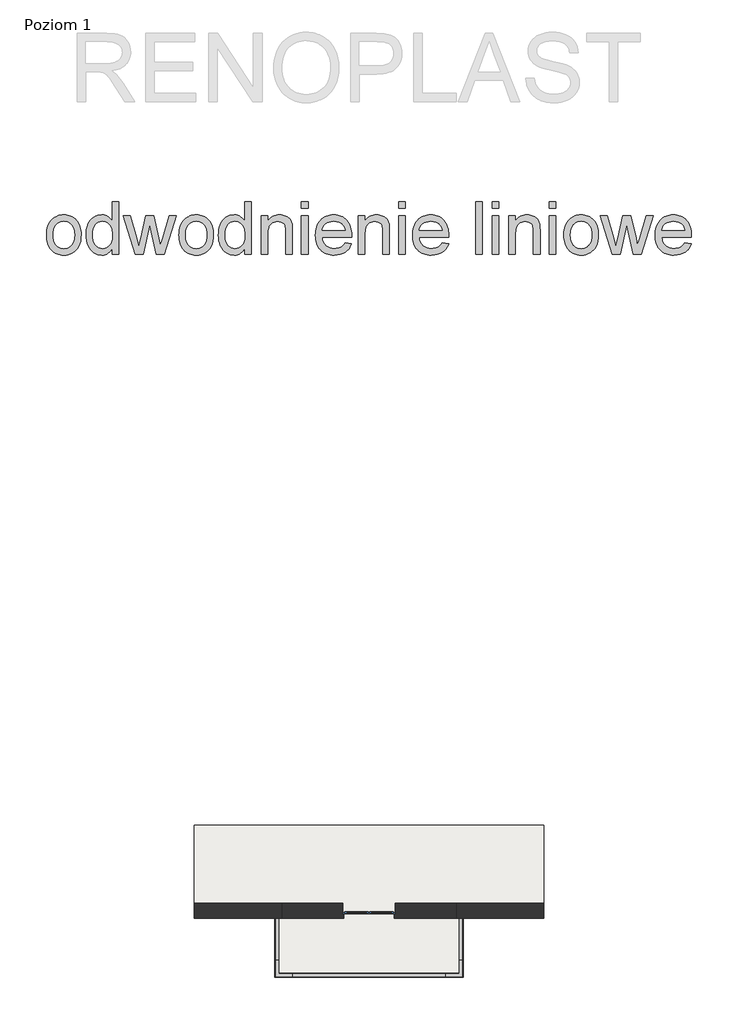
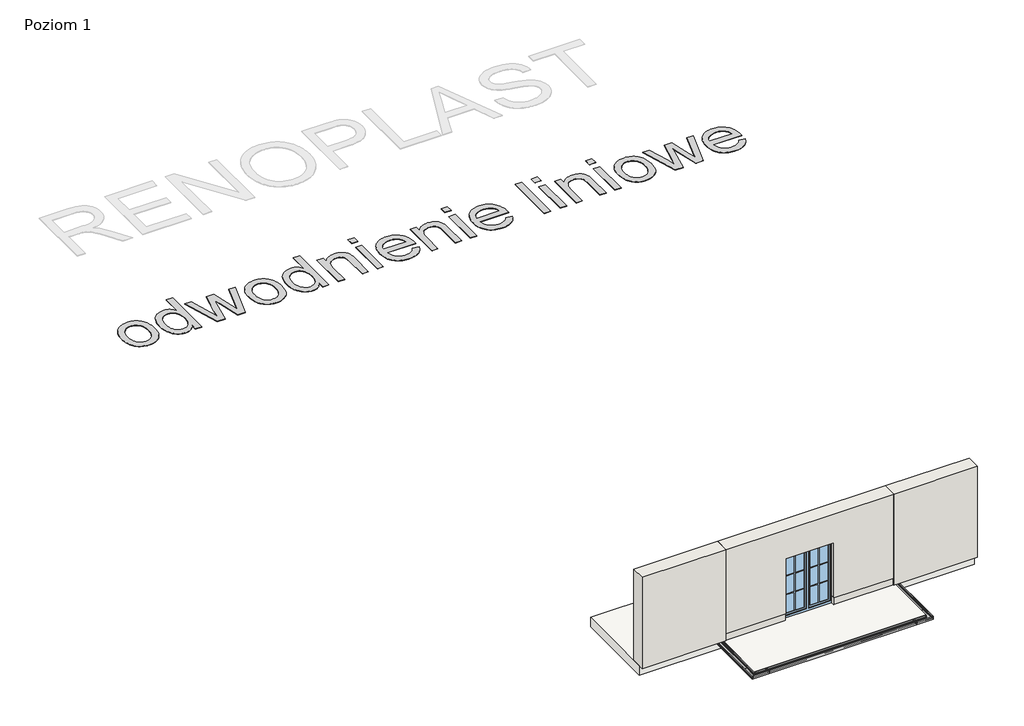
# One storey, part 1 of 2: 6 proxies, 4 walls, 3 slabs, 1 window.
"""IFC4 building model written with IfcOpenShell, lengths in millimetres."""

from ifc_helpers import new_model, si_unit, frame, origin, origin_with_axes, place, context, project, spatial, polyline, outline, extrude, faceted_brep, transform, mapped, element, save
from components import generic_models_1564dfc5, generic_models_f545b3be, generic_models_1ec3699d, generic_models_fa7b45f4, generic_models_2630b972, window_150x200_12b14935

model = new_model("IFC4")

# Units and contexts
model_context = context("Model", 3, world=origin())
ifc_project = project(units=[si_unit("LENGTHUNIT", "METRE", prefix="MILLI")], contexts=[model_context])

# Site, building, storey
site = spatial("IfcSite", under=ifc_project)
building = spatial("IfcBuilding", under=site)
storey = spatial("IfcBuildingStorey", under=building, Name="Poziom 1", Elevation=0.0)

# Proxies
placement = place(None, origin())
generic_models_shape = generic_models_1564dfc5(model_context)
element("IfcBuildingElementProxy", 1, Name="Zakończenie RENODRAIN : Zakończenie RENODRAIN", ObjectType="Zakończenie RENODRAIN : Zakończenie RENODRAIN", at=placement, inside=storey, context=model_context, shape_type="MappedRepresentation", body=[
    mapped(generic_models_shape, transform((-100591.2365031, 45415.2483344, -55.0), x_axis=(0.0, -1.0, 0.0), y_axis=(1.0, 0.0, 0.0), z_axis=(0.0, 0.0, 1.0))),
])
generic_models_2_shape = generic_models_f545b3be(model_context)
element("IfcBuildingElementProxy", 2, Name="Zakończenie RENODRAIN : Zakończenie RENODRAIN", ObjectType="Zakończenie RENODRAIN : Zakończenie RENODRAIN", at=placement, inside=storey, context=model_context, shape_type="MappedRepresentation", body=[
    mapped(generic_models_2_shape, transform((-105717.2365022, 45415.2483344, -55.0), x_axis=(0.0, -1.0, 0.0), y_axis=(1.0, 0.0, 0.0), z_axis=(0.0, 0.0, 1.0))),
])
generic_models_3_shape = generic_models_1ec3699d(model_context)
element("IfcBuildingElementProxy", 3, Name="Koryto RENODRAIN : RENODRAIN", ObjectType="Koryto RENODRAIN : RENODRAIN", at=placement, inside=storey, context=model_context, shape_type="MappedRepresentation", body=[
    mapped(generic_models_3_shape, transform((-105717.2365026, 45418.2483344, -55.0), x_axis=(0.0, -1.0, 0.0), y_axis=(1.0, 0.0, 0.0), z_axis=(0.0, 0.0, 1.0))),
])
generic_models_4_shape = generic_models_fa7b45f4(model_context)
element("IfcBuildingElementProxy", 4, Name="Koryto RENODRAIN : RENODRAIN", ObjectType="Koryto RENODRAIN : RENODRAIN", at=placement, inside=storey, context=model_context, shape_type="MappedRepresentation", body=[
    mapped(generic_models_4_shape, transform((-100591.2365026, 45418.2483344, -55.0), x_axis=(0.0, -1.0, 0.0), y_axis=(1.0, 0.0, 0.0), z_axis=(0.0, 0.0, 1.0))),
])
generic_models_5_shape = generic_models_2630b972(model_context)
element("IfcBuildingElementProxy", 5, Name="Koryto RENODRAIN : RENODRAIN", ObjectType="Koryto RENODRAIN : RENODRAIN", at=placement, inside=storey, context=model_context, shape_type="MappedRepresentation", body=[
    mapped(generic_models_5_shape, transform((-105717.2365026, 43700.2483344, -55.0), x_axis=(1.0, 0.0, 0.0), y_axis=(0.0, 1.0, 0.0), z_axis=(0.0, 0.0, 1.0))),
])
element("IfcBuildingElementProxy", 6, Name="1500 mm Arial", ObjectType="1500 mm Arial", at=placement, inside=storey, context=model_context, shape_type="SweptSolid", body=[
    extrude(outline(polyline([(-112385.6205098, 64818.9922936), (-112383.0740766, 64893.1262638), (-112375.434777, 64962.3053233), (-112362.7026111, 65026.5294723), (-112344.8775788, 65085.7987106), (-112321.9596801, 65140.1130383), (-112293.9489151, 65189.4724554), (-112260.8452837, 65233.8769618), (-112222.6487859, 65273.3265576), (-112187.6885001, 65302.0385977), (-112150.8658116, 65326.9223658), (-112112.1807206, 65347.9778619), (-112071.6332269, 65365.2050859), (-112029.2233306, 65378.604038), (-111984.9510318, 65388.174718), (-111938.8163303, 65393.917126), (-111890.8192263, 65395.831262), (-111837.6171668, 65393.5003847), (-111786.9040589, 65386.5077527), (-111738.6799027, 65374.8533661), (-111692.9446981, 65358.5372248), (-111649.6984451, 65337.5593288), (-111608.9411438, 65311.9196782), (-111570.672794, 65281.6182729), (-111534.8933959, 65246.655113), (-111502.5169063, 65207.5820214), (-111474.4572819, 65164.9508211), (-111450.7145228, 65118.7615122), (-111431.288629, 65069.0140946), (-111416.1796005, 65015.7085683), (-111405.3874373, 64958.8449333), (-111398.9121394, 64898.4231897), (-111396.7537067, 64834.4433374), (-111400.5704824, 64733.6206781), (-111412.0208095, 64644.1563754), (-111431.104688, 64566.0504293), (-111457.8221179, 64499.3028398), (-111491.8397062, 64441.6488334), (-111532.8240597, 64390.8236365), (-111580.7751785, 64346.8272491), (-111635.6930626, 64309.6596713), (-111695.4393979, 64280.1256448), (-111757.8758703, 64259.0299117), (-111823.0024797, 64246.3724718), (-111890.8192263, 64242.1533252), (-111944.8605165, 64244.4755802), (-111996.2519068, 64251.4423455), (-112044.9933971, 64263.053621), (-112091.0849874, 64279.3094067), (-112134.5266777, 64300.2097025), (-112175.318468, 64325.7545086), (-112213.4603583, 64355.9438248), (-112248.9523486, 64390.7776512), (-112280.9839489, 64429.9800763), (-112308.7446691, 64473.2751886), (-112332.2345093, 64520.6629881), (-112351.4534695, 64572.1434748), (-112366.4015496, 64627.7166487), (-112377.0787497, 64687.3825098), (-112383.4850698, 64751.1410581), (-112385.6205098, 64818.9922936)]), holes=[polyline([(-112197.2649282, 64819.3601756), (-112191.8156762, 64727.9989813), (-112185.0041111, 64686.9140351), (-112175.46792, 64648.8928561), (-112163.2071029, 64613.9354443), (-112148.2216598, 64582.0417998), (-112130.5115906, 64553.2119225), (-112110.0768954, 64527.4458124), (-112087.5786121, 64504.7262251), (-112063.6777787, 64485.0359162), (-112038.3743953, 64468.3748855), (-112011.6684617, 64454.7431331), (-111983.559978, 64444.1406591), (-111954.0489442, 64436.5674633), (-111890.8192263, 64430.5089067), (-111827.9114051, 64436.6019522), (-111798.5268307, 64444.2182592), (-111770.5218138, 64454.8810889), (-111743.8963544, 64468.5904413), (-111718.6504525, 64485.3463166), (-111694.7841081, 64505.1487146), (-111672.2973211, 64527.9976354), (-111651.8626259, 64553.967805), (-111634.1525568, 64583.1339494), (-111619.1671136, 64615.4960687), (-111606.9062965, 64651.0541628), (-111597.3701054, 64689.8082317), (-111590.5585403, 64731.7582755), (-111585.1092883, 64825.2462875), (-111590.5930293, 64913.710411), (-111597.4477055, 64953.6572224), (-111607.0442522, 64990.7472001), (-111619.3826695, 65024.9803442), (-111634.4629572, 65056.3566547), (-111652.2851154, 65084.8761315), (-111672.8491441, 65110.5387748), (-111719.3747202, 65152.948671), (-111744.6292444, 65169.6097017), (-111771.2115926, 65183.2414541), (-111799.1217649, 65193.8439281), (-111828.3597613, 65201.4171239), (-111890.8192263, 65207.4756805), (-111954.0489442, 65201.4401165), (-111983.559978, 65193.8956615), (-112011.6684617, 65183.3334246), (-112038.3743953, 65169.7534056), (-112063.6777787, 65153.1556046), (-112087.5786121, 65133.5400217), (-112110.0768954, 65110.9066568), (-112130.5115906, 65085.2267691), (-112148.2216598, 65056.4716178), (-112163.2071029, 65024.641203), (-112175.46792, 64989.7355246), (-112185.0041111, 64951.7545827), (-112191.8156762, 64910.6983772), (-112197.2649282, 64819.3601756)])]), origin_with_axes(), (0.0, 0.0, 1.0), 10.0),
    extrude(outline(polyline([(-110502.0646945, 64265.6977728), (-110502.0646945, 64443.3847765), (-110528.7533836, 64396.2211551), (-110558.4196176, 64355.3460165), (-110591.0633965, 64320.7593608), (-110626.6847203, 64292.461188), (-110665.2835891, 64270.451498), (-110706.8600027, 64254.7302909), (-110751.4139612, 64245.2975666), (-110798.9454646, 64242.1533252), (-110861.1175218, 64246.7058648), (-110920.714405, 64260.3634839), (-110977.7361142, 64283.1261824), (-111032.1826495, 64314.9939602), (-111082.3525566, 64355.0126235), (-111126.5443813, 64402.2279783), (-111164.7581235, 64456.6400247), (-111196.9937834, 64518.2487625), (-111222.5845747, 64585.8815681), (-111240.8637113, 64658.3658174), (-111251.8311933, 64735.7015106), (-111255.4870206, 64817.8886476), (-111252.1186011, 64898.5697677), (-111242.0133425, 64975.434112), (-111225.1712449, 65048.4816807), (-111201.5923083, 65117.7124737), (-111171.2880289, 65181.10314), (-111134.2699032, 65236.6303286), (-111090.537931, 65284.2940396), (-111040.0921124, 65324.094273), (-110984.7143758, 65355.4792057), (-110926.1866497, 65377.8970148), (-110864.5089339, 65391.3477002), (-110799.6812286, 65395.831262), (-110752.2704364, 65392.6237909), (-110707.5267888, 65383.0013774), (-110665.4502856, 65366.9640217), (-110626.0409268, 65344.5117237), (-110589.7355724, 65316.9320704), (-110556.9710823, 65285.5126487), (-110527.7474563, 65250.2534588), (-110502.0646945, 65211.1545005), (-110502.0646945, 65772.5424251), (-110313.7091129, 65772.5424251), (-110313.7091129, 64265.6977728), (-110502.0646945, 64265.6977728)]), holes=[polyline([(-111067.1314391, 64818.6244116), (-111061.8201428, 64727.28621), (-111055.1810224, 64686.2300045), (-111045.8862538, 64648.2490626), (-111033.9358372, 64613.3433842), (-111019.3297723, 64581.5129694), (-111002.0680593, 64552.7578181), (-110982.1506982, 64527.0779304), (-110937.7519399, 64484.8289825), (-110889.5364059, 64454.6511626), (-110837.5040962, 64436.5444707), (-110781.6550108, 64430.5089067), (-110725.5415102, 64436.2685592), (-110673.819601, 64453.5475166), (-110626.489283, 64482.3457791), (-110583.5505564, 64522.6633465), (-110564.4523075, 64547.2223437), (-110547.9004918, 64574.8221156), (-110533.8951093, 64605.4626621), (-110522.43616, 64639.1439832), (-110507.1575608, 64715.6289493), (-110502.0646945, 64804.2770138), (-110507.2495313, 64901.4668384), (-110513.7305774, 64944.8711657), (-110522.804042, 64984.8151029), (-110534.4699249, 65021.2986502), (-110548.7282263, 65054.3218074), (-110565.5789461, 65083.8845746), (-110585.0220844, 65109.9869518), (-110628.9035086, 65152.6382706), (-110652.6462677, 65169.3941458), (-110677.5903914, 65183.1034983), (-110703.7358798, 65193.766328), (-110731.0827328, 65201.382635), (-110789.3805327, 65207.4756805), (-110846.3332641, 65201.6240575), (-110898.3655738, 65184.0691886), (-110945.4774618, 65154.8110736), (-110987.6689281, 65113.8497127), (-111006.2929541, 65088.7561369), (-111022.4337767, 65060.2883935), (-111036.0913957, 65028.4464824), (-111047.2658113, 64993.2304036), (-111062.1650321, 64912.6757429), (-111067.1314391, 64818.6244116)])]), origin_with_axes(), (0.0, 0.0, 1.0), 10.0),
    extrude(outline(polyline([(-109846.1310971, 64265.6977728), (-110184.2146506, 65372.2868143), (-109988.8693112, 65372.2868143), (-109797.5706737, 64726.6539128), (-109740.5489645, 64495.9919018), (-109693.8279511, 64718.1926269), (-109541.8926871, 65372.2868143), (-109318.220434, 65372.2868143), (-109166.28517, 64720.0320369), (-109124.7145045, 64518.8005855), (-109065.1176213, 64731.0684967), (-108873.8189838, 65372.2868143), (-108677.3699984, 65372.2868143), (-109016.5571979, 64265.6977728), (-109243.908271, 64265.6977728), (-109388.8537771, 64914.6416123), (-109430.7923245, 65116.9767097), (-109617.3084961, 64265.6977728), (-109846.1310971, 64265.6977728)])), origin_with_axes(), (0.0, 0.0, 1.0), 10.0),
    extrude(outline(polyline([(-108594.9644315, 64818.9922936), (-108592.4179983, 64893.1262638), (-108584.7786987, 64962.3053233), (-108572.0465328, 65026.5294723), (-108554.2215005, 65085.7987106), (-108531.3036018, 65140.1130383), (-108503.2928368, 65189.4724554), (-108470.1892054, 65233.8769618), (-108431.9927076, 65273.3265576), (-108397.0324218, 65302.0385977), (-108360.2097333, 65326.9223658), (-108321.5246422, 65347.9778619), (-108280.9771486, 65365.2050859), (-108238.5672523, 65378.604038), (-108194.2949535, 65388.174718), (-108148.160252, 65393.917126), (-108100.163148, 65395.831262), (-108046.9610885, 65393.5003847), (-107996.2479806, 65386.5077527), (-107948.0238244, 65374.8533661), (-107902.2886198, 65358.5372248), (-107859.0423668, 65337.5593288), (-107818.2850655, 65311.9196782), (-107780.0167157, 65281.6182729), (-107744.2373176, 65246.655113), (-107711.860828, 65207.5820214), (-107683.8012036, 65164.9508211), (-107660.0584445, 65118.7615122), (-107640.6325507, 65069.0140946), (-107625.5235222, 65015.7085683), (-107614.731359, 64958.8449333), (-107608.2560611, 64898.4231897), (-107606.0976284, 64834.4433374), (-107609.9144041, 64733.6206781), (-107621.3647312, 64644.1563754), (-107640.4486097, 64566.0504293), (-107667.1660396, 64499.3028398), (-107701.1836279, 64441.6488334), (-107742.1679814, 64390.8236365), (-107790.1191002, 64346.8272491), (-107845.0369843, 64309.6596713), (-107904.7833196, 64280.1256448), (-107967.219792, 64259.0299117), (-108032.3464014, 64246.3724718), (-108100.163148, 64242.1533252), (-108154.2044382, 64244.4755802), (-108205.5958285, 64251.4423455), (-108254.3373188, 64263.053621), (-108300.4289091, 64279.3094067), (-108343.8705994, 64300.2097025), (-108384.6623897, 64325.7545086), (-108422.80428, 64355.9438248), (-108458.2962703, 64390.7776512), (-108490.3278706, 64429.9800763), (-108518.0885908, 64473.2751886), (-108541.578431, 64520.6629881), (-108560.7973912, 64572.1434748), (-108575.7454713, 64627.7166487), (-108586.4226714, 64687.3825098), (-108592.8289915, 64751.1410581), (-108594.9644315, 64818.9922936)]), holes=[polyline([(-108406.6088499, 64819.3601756), (-108401.1595979, 64727.9989813), (-108394.3480328, 64686.9140351), (-108384.8118417, 64648.8928561), (-108372.5510246, 64613.9354443), (-108357.5655815, 64582.0417998), (-108339.8555123, 64553.2119225), (-108319.4208171, 64527.4458124), (-108296.9225338, 64504.7262251), (-108273.0217004, 64485.0359162), (-108247.718317, 64468.3748855), (-108221.0123834, 64454.7431331), (-108192.9038997, 64444.1406591), (-108163.3928659, 64436.5674633), (-108100.163148, 64430.5089067), (-108037.2553268, 64436.6019522), (-108007.8707524, 64444.2182592), (-107979.8657355, 64454.8810889), (-107953.2402761, 64468.5904413), (-107927.9943742, 64485.3463166), (-107904.1280298, 64505.1487146), (-107881.6412428, 64527.9976354), (-107861.2065476, 64553.967805), (-107843.4964785, 64583.1339494), (-107828.5110353, 64615.4960687), (-107816.2502182, 64651.0541628), (-107806.7140271, 64689.8082317), (-107799.902462, 64731.7582755), (-107794.45321, 64825.2462875), (-107799.936951, 64913.710411), (-107806.7916272, 64953.6572224), (-107816.3881739, 64990.7472001), (-107828.7265912, 65024.9803442), (-107843.8068789, 65056.3566547), (-107861.6290371, 65084.8761315), (-107882.1930658, 65110.5387748), (-107928.7186419, 65152.948671), (-107953.9731661, 65169.6097017), (-107980.5555143, 65183.2414541), (-108008.4656866, 65193.8439281), (-108037.703683, 65201.4171239), (-108100.163148, 65207.4756805), (-108163.3928659, 65201.4401165), (-108192.9038997, 65193.8956615), (-108221.0123834, 65183.3334246), (-108247.718317, 65169.7534056), (-108273.0217004, 65153.1556046), (-108296.9225338, 65133.5400217), (-108319.4208171, 65110.9066568), (-108339.8555123, 65085.2267691), (-108357.5655815, 65056.4716178), (-108372.5510246, 65024.641203), (-108384.8118417, 64989.7355246), (-108394.3480328, 64951.7545827), (-108401.1595979, 64910.6983772), (-108406.6088499, 64819.3601756)])]), origin_with_axes(), (0.0, 0.0, 1.0), 10.0),
    extrude(outline(polyline([(-106711.4086162, 64265.6977728), (-106711.4086162, 64443.3847765), (-106738.0973053, 64396.2211551), (-106767.7635393, 64355.3460165), (-106800.4073182, 64320.7593608), (-106836.028642, 64292.461188), (-106874.6275108, 64270.451498), (-106916.2039244, 64254.7302909), (-106960.7578829, 64245.2975666), (-107008.2893863, 64242.1533252), (-107070.4614435, 64246.7058648), (-107130.0583267, 64260.3634839), (-107187.0800359, 64283.1261824), (-107241.5265712, 64314.9939602), (-107291.6964783, 64355.0126235), (-107335.888303, 64402.2279783), (-107374.1020452, 64456.6400247), (-107406.3377051, 64518.2487625), (-107431.9284963, 64585.8815681), (-107450.207633, 64658.3658174), (-107461.175115, 64735.7015106), (-107464.8309423, 64817.8886476), (-107461.4625228, 64898.5697677), (-107451.3572642, 64975.434112), (-107434.5151666, 65048.4816807), (-107410.93623, 65117.7124737), (-107380.6319506, 65181.10314), (-107343.6138249, 65236.6303286), (-107299.8818527, 65284.2940396), (-107249.4360341, 65324.094273), (-107194.0582975, 65355.4792057), (-107135.5305714, 65377.8970148), (-107073.8528556, 65391.3477002), (-107009.0251503, 65395.831262), (-106961.6143581, 65392.6237909), (-106916.8707105, 65383.0013774), (-106874.7942073, 65366.9640217), (-106835.3848485, 65344.5117237), (-106799.0794941, 65316.9320704), (-106766.315004, 65285.5126487), (-106737.091378, 65250.2534588), (-106711.4086162, 65211.1545005), (-106711.4086162, 65772.5424251), (-106523.0530346, 65772.5424251), (-106523.0530346, 64265.6977728), (-106711.4086162, 64265.6977728)]), holes=[polyline([(-107276.4753608, 64818.6244116), (-107271.1640645, 64727.28621), (-107264.5249441, 64686.2300045), (-107255.2301755, 64648.2490626), (-107243.2797589, 64613.3433842), (-107228.673694, 64581.5129694), (-107211.411981, 64552.7578181), (-107191.4946199, 64527.0779304), (-107147.0958616, 64484.8289825), (-107098.8803276, 64454.6511626), (-107046.8480179, 64436.5444707), (-106990.9989325, 64430.5089067), (-106934.8854319, 64436.2685592), (-106883.1635227, 64453.5475166), (-106835.8332047, 64482.3457791), (-106792.8944781, 64522.6633465), (-106773.7962292, 64547.2223437), (-106757.2444135, 64574.8221156), (-106743.239031, 64605.4626621), (-106731.7800817, 64639.1439832), (-106716.5014825, 64715.6289493), (-106711.4086162, 64804.2770138), (-106716.593453, 64901.4668384), (-106723.0744991, 64944.8711657), (-106732.1479636, 64984.8151029), (-106743.8138466, 65021.2986502), (-106758.072148, 65054.3218074), (-106774.9228678, 65083.8845746), (-106794.3660061, 65109.9869518), (-106838.2474303, 65152.6382706), (-106861.9901894, 65169.3941458), (-106886.9343131, 65183.1034983), (-106913.0798015, 65193.766328), (-106940.4266545, 65201.382635), (-106998.7244544, 65207.4756805), (-107055.6771858, 65201.6240575), (-107107.7094955, 65184.0691886), (-107154.8213835, 65154.8110736), (-107197.0128498, 65113.8497127), (-107215.6368758, 65088.7561369), (-107231.7776983, 65060.2883935), (-107245.4353174, 65028.4464824), (-107256.609733, 64993.2304036), (-107271.5089538, 64912.6757429), (-107276.4753608, 64818.6244116)])]), origin_with_axes(), (0.0, 0.0, 1.0), 10.0),
    extrude(outline(polyline([(-106240.5196623, 64265.6977728), (-106240.5196623, 65372.2868143), (-106052.1640808, 65372.2868143), (-106052.1640808, 65217.7763764), (-106021.0895485, 65259.5079902), (-105986.7270709, 65295.6753888), (-105949.076648, 65326.2785723), (-105908.1382797, 65351.3175406), (-105863.9119661, 65370.7922937), (-105816.3977072, 65384.7028317), (-105765.5955029, 65393.0491544), (-105711.5053533, 65395.831262), (-105664.1060575, 65393.5894811), (-105618.6611347, 65386.8641384), (-105575.1705851, 65375.6552339), (-105533.6344086, 65359.9627675), (-105495.6276, 65340.6259701), (-105462.725154, 65318.4840725), (-105434.9270708, 65293.5370747), (-105412.2333502, 65265.7849767), (-105393.5978279, 65235.2622674), (-105377.9743394, 65202.0034358), (-105365.3628848, 65166.0084819), (-105355.7634639, 65127.2774056), (-105348.3138535, 65055.816328), (-105345.8306501, 64945.1758179), (-105345.8306501, 64265.6977728), (-105534.1862316, 64265.6977728), (-105534.1862316, 64919.7919603), (-105539.612491, 65017.1887185), (-105546.3953153, 65055.3334829), (-105555.8912693, 65086.4425041), (-105568.8246207, 65112.6425999), (-105585.9196372, 65136.0605882), (-105607.1763187, 65156.6964689), (-105632.5946653, 65174.5502419), (-105661.3009573, 65188.9551213), (-105692.4214748, 65199.2443209), (-105725.9562179, 65205.4178406), (-105761.9051866, 65207.4756805), (-105819.0993406, 65202.8541629), (-105872.2237999, 65188.9896102), (-105921.2785647, 65165.8820224), (-105966.2636349, 65133.5313995), (-105986.3965519, 65112.9702448), (-106003.84508, 65088.2589214), (-106018.6092191, 65059.3974293), (-106030.6889693, 65026.3857684), (-106040.0843306, 64989.2239387), (-106046.7953029, 64947.9119403), (-106052.1640808, 64852.8374371), (-106052.1640808, 64265.6977728), (-106240.5196623, 64265.6977728)])), origin_with_axes(), (0.0, 0.0, 1.0), 10.0),
    extrude(outline(polyline([(-105086.8417255, 64265.6977728), (-105086.8417255, 65372.2868143), (-104898.4861439, 65372.2868143), (-104898.4861439, 64265.6977728), (-105086.8417255, 64265.6977728)])), origin_with_axes(), (0.0, 0.0, 1.0), 10.0),
    extrude(outline(polyline([(-105086.8417255, 65584.1868436), (-105086.8417255, 65772.5424251), (-104898.4861439, 65772.5424251), (-104898.4861439, 65584.1868436), (-105086.8417255, 65584.1868436)])), origin_with_axes(), (0.0, 0.0, 1.0), 10.0),
    extrude(outline(polyline([(-103841.1932898, 64595.3200405), (-103656.5165282, 64571.7755928), (-103684.8319455, 64497.8083192), (-103702.7058372, 64464.1183758), (-103723.0571841, 64432.6242282), (-103745.8859863, 64403.3258761), (-103771.1922439, 64376.2233198), (-103798.9759568, 64351.3165591), (-103829.237125, 64328.605594), (-103861.8262964, 64308.3433435), (-103896.594019, 64290.7827264), (-103933.5402928, 64275.9237427), (-103972.6651178, 64263.7663924), (-104057.4504214, 64247.556592), (-104150.9499297, 64242.1533252), (-104210.9779247, 64244.4842025), (-104267.8214411, 64251.4768345), (-104321.480479, 64263.1312211), (-104371.9550383, 64279.4473624), (-104419.2451192, 64300.4252584), (-104463.3507215, 64326.064909), (-104504.2718453, 64356.3663143), (-104542.0084906, 64391.3294742), (-104575.8938713, 64430.5002845), (-104605.2612012, 64473.4246407), (-104630.1104803, 64520.1025429), (-104650.4417087, 64570.5339911), (-104666.2548863, 64624.7189853), (-104677.5500132, 64682.6575254), (-104684.3270893, 64744.3496116), (-104686.5861147, 64809.7952437), (-104684.3040967, 64877.4682864), (-104677.4580427, 64941.2440791), (-104666.0479527, 65001.122622), (-104650.0738267, 65057.103915), (-104629.5356647, 65109.1879581), (-104604.4334667, 65157.3747513), (-104574.7672327, 65201.6642946), (-104540.5369626, 65242.056588), (-104502.6681098, 65278.0975273), (-104462.0861272, 65309.3330079), (-104418.7910149, 65335.76303), (-104372.7827728, 65357.3875935), (-104324.0614011, 65374.2066985), (-104272.6268996, 65386.2203449), (-104218.4792685, 65393.4285327), (-104161.6185076, 65395.831262), (-104106.6172752, 65393.4342809), (-104054.1854687, 65386.2433375), (-104004.323088, 65374.2584319), (-103957.030133, 65357.479564), (-103912.3066039, 65335.9067339), (-103870.1525006, 65309.5399415), (-103830.5678231, 65278.3791869), (-103793.5525714, 65242.42447), (-103760.0551913, 65202.1241471), (-103731.0241286, 65157.9265743), (-103706.4593831, 65109.8317516), (-103686.3609551, 65057.839679), (-103670.7288444, 65001.9503565), (-103659.563051, 64942.1637841), (-103652.863575, 64878.4799618), (-103650.6304163, 64810.8988897), (-103651.7340623, 64760.1311744), (-104498.2305332, 64760.1311744), (-104487.3205328, 64684.9682842), (-104477.8217047, 64650.8874663), (-104465.6269914, 64619.1403997), (-104450.7363928, 64589.7270846), (-104433.149909, 64562.6475208), (-104412.8675399, 64537.9017085), (-104389.8892856, 64515.4896476), (-104338.2363542, 64478.3105734), (-104280.5823478, 64451.7540919), (-104216.9272663, 64435.820203), (-104147.2711098, 64430.5089067), (-104095.1698222, 64432.9691175), (-104047.0232661, 64440.3497501), (-104002.8314414, 64452.6508043), (-103962.5943482, 64469.8722802), (-103926.3119864, 64492.4740302), (-103893.9843561, 64520.915907), (-103865.6114572, 64555.1979104), (-103841.1932898, 64595.3200405)]), holes=[polyline([(-104498.2305332, 64948.4867559), (-103838.9859978, 64948.4867559), (-103848.6658928, 65001.7836599), (-103864.461826, 65047.9988356), (-103886.3737973, 65087.1322828), (-103914.4018068, 65119.1840017), (-103939.1993526, 65139.8773639), (-103965.7673304, 65157.8116112), (-103994.1057404, 65172.9867435), (-104024.2145824, 65185.4027608), (-104089.7435628, 65201.9574506), (-104162.3542716, 65207.4756805), (-104228.584527, 65203.0725929), (-104289.3195452, 65189.86333), (-104344.559326, 65167.8478918), (-104394.3038696, 65137.0262784), (-104436.0469797, 65098.8240325), (-104467.2824603, 65054.6666968), (-104488.0103115, 65004.5542712), (-104498.2305332, 64948.4867559)])]), origin_with_axes(), (0.0, 0.0, 1.0), 10.0),
    extrude(outline(polyline([(-103462.2748348, 64265.6977728), (-103462.2748348, 65372.2868143), (-103273.9192532, 65372.2868143), (-103273.9192532, 65217.7763764), (-103242.844721, 65259.5079902), (-103208.4822433, 65295.6753888), (-103170.8318204, 65326.2785723), (-103129.8934521, 65351.3175406), (-103085.6671385, 65370.7922937), (-103038.1528796, 65384.7028317), (-102987.3506753, 65393.0491544), (-102933.2605257, 65395.831262), (-102885.8612299, 65393.5894811), (-102840.4163072, 65386.8641384), (-102796.9257576, 65375.6552339), (-102755.389581, 65359.9627675), (-102717.3827724, 65340.6259701), (-102684.4803265, 65318.4840725), (-102656.6822432, 65293.5370747), (-102633.9885226, 65265.7849767), (-102615.3530003, 65235.2622674), (-102599.7295118, 65202.0034358), (-102587.1180572, 65166.0084819), (-102577.5186364, 65127.2774056), (-102570.069026, 65055.816328), (-102567.5858225, 64945.1758179), (-102567.5858225, 64265.6977728), (-102755.941404, 64265.6977728), (-102755.941404, 64919.7919603), (-102761.3676635, 65017.1887185), (-102768.1504877, 65055.3334829), (-102777.6464417, 65086.4425041), (-102790.5797931, 65112.6425999), (-102807.6748096, 65136.0605882), (-102828.9314911, 65156.6964689), (-102854.3498377, 65174.5502419), (-102883.0561297, 65188.9551213), (-102914.1766472, 65199.2443209), (-102947.7113903, 65205.4178406), (-102983.660359, 65207.4756805), (-103040.854513, 65202.8541629), (-103093.9789723, 65188.9896102), (-103143.0337371, 65165.8820224), (-103188.0188074, 65133.5313995), (-103208.1517244, 65112.9702448), (-103225.6002524, 65088.2589214), (-103240.3643916, 65059.3974293), (-103252.4441418, 65026.3857684), (-103261.839503, 64989.2239387), (-103268.5504754, 64947.9119403), (-103273.9192532, 64852.8374371), (-103273.9192532, 64265.6977728), (-103462.2748348, 64265.6977728)])), origin_with_axes(), (0.0, 0.0, 1.0), 10.0),
    extrude(outline(polyline([(-102308.5968979, 65584.1868436), (-102308.5968979, 65772.5424251), (-102120.2413164, 65772.5424251), (-102120.2413164, 65584.1868436), (-102308.5968979, 65584.1868436)])), origin_with_axes(), (0.0, 0.0, 1.0), 10.0),
    extrude(outline(polyline([(-102308.5968979, 64265.6977728), (-102308.5968979, 65372.2868143), (-102120.2413164, 65372.2868143), (-102120.2413164, 64265.6977728), (-102308.5968979, 64265.6977728)])), origin_with_axes(), (0.0, 0.0, 1.0), 10.0),
    extrude(outline(polyline([(-101062.9484622, 64595.3200405), (-100878.2717006, 64571.7755928), (-100906.587118, 64497.8083192), (-100924.4610096, 64464.1183758), (-100944.8123565, 64432.6242282), (-100967.6411588, 64403.3258761), (-100992.9474163, 64376.2233198), (-101020.7311292, 64351.3165591), (-101050.9922974, 64328.605594), (-101083.5814688, 64308.3433435), (-101118.3491914, 64290.7827264), (-101155.2954653, 64275.9237427), (-101194.4202903, 64263.7663924), (-101279.2055938, 64247.556592), (-101372.7051022, 64242.1533252), (-101432.7330971, 64244.4842025), (-101489.5766135, 64251.4768345), (-101543.2356514, 64263.1312211), (-101593.7102108, 64279.4473624), (-101641.0002916, 64300.4252584), (-101685.1058939, 64326.064909), (-101726.0270178, 64356.3663143), (-101763.763663, 64391.3294742), (-101797.6490437, 64430.5002845), (-101827.0163736, 64473.4246407), (-101851.8656527, 64520.1025429), (-101872.1968811, 64570.5339911), (-101888.0100588, 64624.7189853), (-101899.3051856, 64682.6575254), (-101906.0822618, 64744.3496116), (-101908.3412871, 64809.7952437), (-101906.0592691, 64877.4682864), (-101899.2132151, 64941.2440791), (-101887.8031251, 65001.122622), (-101871.8289991, 65057.103915), (-101851.2908371, 65109.1879581), (-101826.1886391, 65157.3747513), (-101796.5224051, 65201.6642946), (-101762.2921351, 65242.056588), (-101724.4232822, 65278.0975273), (-101683.8412996, 65309.3330079), (-101640.5461873, 65335.76303), (-101594.5379453, 65357.3875935), (-101545.8165735, 65374.2066985), (-101494.3820721, 65386.2203449), (-101440.2344409, 65393.4285327), (-101383.37368, 65395.831262), (-101328.3724477, 65393.4342809), (-101275.9406411, 65386.2433375), (-101226.0782604, 65374.2584319), (-101178.7853055, 65357.479564), (-101134.0617763, 65335.9067339), (-101091.907673, 65309.5399415), (-101052.3229955, 65278.3791869), (-101015.3077439, 65242.42447), (-100981.8103637, 65202.1241471), (-100952.779301, 65157.9265743), (-100928.2145556, 65109.8317516), (-100908.1161275, 65057.839679), (-100892.4840168, 65001.9503565), (-100881.3182234, 64942.1637841), (-100874.6187474, 64878.4799618), (-100872.3855887, 64810.8988897), (-100873.4892347, 64760.1311744), (-101719.9857056, 64760.1311744), (-101709.0757052, 64684.9682842), (-101699.5768771, 64650.8874663), (-101687.3821638, 64619.1403997), (-101672.4915652, 64589.7270846), (-101654.9050814, 64562.6475208), (-101634.6227123, 64537.9017085), (-101611.644458, 64515.4896476), (-101559.9915266, 64478.3105734), (-101502.3375202, 64451.7540919), (-101438.6824387, 64435.820203), (-101369.0262822, 64430.5089067), (-101316.9249946, 64432.9691175), (-101268.7784385, 64440.3497501), (-101224.5866139, 64452.6508043), (-101184.3495206, 64469.8722802), (-101148.0671589, 64492.4740302), (-101115.7395285, 64520.915907), (-101087.3666297, 64555.1979104), (-101062.9484622, 64595.3200405)]), holes=[polyline([(-101719.9857056, 64948.4867559), (-101060.7411703, 64948.4867559), (-101070.4210653, 65001.7836599), (-101086.2169984, 65047.9988356), (-101108.1289698, 65087.1322828), (-101136.1569793, 65119.1840017), (-101160.954525, 65139.8773639), (-101187.5225028, 65157.8116112), (-101215.8609128, 65172.9867435), (-101245.9697548, 65185.4027608), (-101311.4987352, 65201.9574506), (-101384.109444, 65207.4756805), (-101450.3396995, 65203.0725929), (-101511.0747176, 65189.86333), (-101566.3144984, 65167.8478918), (-101616.059042, 65137.0262784), (-101657.8021521, 65098.8240325), (-101689.0376328, 65054.6666968), (-101709.7654839, 65004.5542712), (-101719.9857056, 64948.4867559)])]), origin_with_axes(), (0.0, 0.0, 1.0), 10.0),
    extrude(outline(polyline([(-100095.4188149, 64265.6977728), (-100095.4188149, 65772.5424251), (-99907.0632334, 65772.5424251), (-99907.0632334, 64265.6977728), (-100095.4188149, 64265.6977728)])), origin_with_axes(), (0.0, 0.0, 1.0), 10.0),
    extrude(outline(polyline([(-99624.5298611, 65584.1868436), (-99624.5298611, 65772.5424251), (-99436.1742796, 65772.5424251), (-99436.1742796, 65584.1868436), (-99624.5298611, 65584.1868436)])), origin_with_axes(), (0.0, 0.0, 1.0), 10.0),
    extrude(outline(polyline([(-99624.5298611, 64265.6977728), (-99624.5298611, 65372.2868143), (-99436.1742796, 65372.2868143), (-99436.1742796, 64265.6977728), (-99624.5298611, 64265.6977728)])), origin_with_axes(), (0.0, 0.0, 1.0), 10.0),
    extrude(outline(polyline([(-99153.6409073, 64265.6977728), (-99153.6409073, 65372.2868143), (-98965.2853257, 65372.2868143), (-98965.2853257, 65217.7763764), (-98934.2107934, 65259.5079902), (-98899.8483158, 65295.6753888), (-98862.1978929, 65326.2785723), (-98821.2595246, 65351.3175406), (-98777.033211, 65370.7922937), (-98729.5189521, 65384.7028317), (-98678.7167478, 65393.0491544), (-98624.6265982, 65395.831262), (-98577.2273024, 65393.5894811), (-98531.7823797, 65386.8641384), (-98488.29183, 65375.6552339), (-98446.7556535, 65359.9627675), (-98408.7488449, 65340.6259701), (-98375.846399, 65318.4840725), (-98348.0483157, 65293.5370747), (-98325.3545951, 65265.7849767), (-98306.7190728, 65235.2622674), (-98291.0955843, 65202.0034358), (-98278.4841297, 65166.0084819), (-98268.8847089, 65127.2774056), (-98261.4350985, 65055.816328), (-98258.951895, 64945.1758179), (-98258.951895, 64265.6977728), (-98447.3074765, 64265.6977728), (-98447.3074765, 64919.7919603), (-98452.7337359, 65017.1887185), (-98459.5165602, 65055.3334829), (-98469.0125142, 65086.4425041), (-98481.9458656, 65112.6425999), (-98499.0408821, 65136.0605882), (-98520.2975636, 65156.6964689), (-98545.7159102, 65174.5502419), (-98574.4222022, 65188.9551213), (-98605.5427197, 65199.2443209), (-98639.0774628, 65205.4178406), (-98675.0264315, 65207.4756805), (-98732.2205855, 65202.8541629), (-98785.3450448, 65188.9896102), (-98834.3998096, 65165.8820224), (-98879.3848799, 65133.5313995), (-98899.5177969, 65112.9702448), (-98916.9663249, 65088.2589214), (-98931.7304641, 65059.3974293), (-98943.8102143, 65026.3857684), (-98953.2055755, 64989.2239387), (-98959.9165479, 64947.9119403), (-98965.2853257, 64852.8374371), (-98965.2853257, 64265.6977728), (-99153.6409073, 64265.6977728)])), origin_with_axes(), (0.0, 0.0, 1.0), 10.0),
    extrude(outline(polyline([(-97999.9629704, 64265.6977728), (-97999.9629704, 65372.2868143), (-97811.6073889, 65372.2868143), (-97811.6073889, 64265.6977728), (-97999.9629704, 64265.6977728)])), origin_with_axes(), (0.0, 0.0, 1.0), 10.0),
    extrude(outline(polyline([(-97999.9629704, 65584.1868436), (-97999.9629704, 65772.5424251), (-97811.6073889, 65772.5424251), (-97811.6073889, 65584.1868436), (-97999.9629704, 65584.1868436)])), origin_with_axes(), (0.0, 0.0, 1.0), 10.0),
    extrude(outline(polyline([(-97576.1629119, 64818.9922936), (-97573.6164788, 64893.1262638), (-97565.9771792, 64962.3053233), (-97553.2450133, 65026.5294723), (-97535.419981, 65085.7987106), (-97512.5020823, 65140.1130383), (-97484.4913173, 65189.4724554), (-97451.3876859, 65233.8769618), (-97413.1911881, 65273.3265576), (-97378.2309022, 65302.0385977), (-97341.4082138, 65326.9223658), (-97302.7231227, 65347.9778619), (-97262.1756291, 65365.2050859), (-97219.7657328, 65378.604038), (-97175.4934339, 65388.174718), (-97129.3587325, 65393.917126), (-97081.3616284, 65395.831262), (-97028.159569, 65393.5003847), (-96977.4464611, 65386.5077527), (-96929.2223049, 65374.8533661), (-96883.4871003, 65358.5372248), (-96840.2408473, 65337.5593288), (-96799.4835459, 65311.9196782), (-96761.2151962, 65281.6182729), (-96725.4357981, 65246.655113), (-96693.0593084, 65207.5820214), (-96664.9996841, 65164.9508211), (-96641.256925, 65118.7615122), (-96621.8310312, 65069.0140946), (-96606.7220027, 65015.7085683), (-96595.9298395, 64958.8449333), (-96589.4545415, 64898.4231897), (-96587.2961089, 64834.4433374), (-96591.1128846, 64733.6206781), (-96602.5632117, 64644.1563754), (-96621.6470902, 64566.0504293), (-96648.3645201, 64499.3028398), (-96682.3821083, 64441.6488334), (-96723.3664619, 64390.8236365), (-96771.3175807, 64346.8272491), (-96826.2354648, 64309.6596713), (-96885.9818001, 64280.1256448), (-96948.4182724, 64259.0299117), (-97013.5448819, 64246.3724718), (-97081.3616284, 64242.1533252), (-97135.4029187, 64244.4755802), (-97186.794309, 64251.4423455), (-97235.5357993, 64263.053621), (-97281.6273896, 64279.3094067), (-97325.0690798, 64300.2097025), (-97365.8608701, 64325.7545086), (-97404.0027604, 64355.9438248), (-97439.4947507, 64390.7776512), (-97471.526351, 64429.9800763), (-97499.2870713, 64473.2751886), (-97522.7769115, 64520.6629881), (-97541.9958716, 64572.1434748), (-97556.9439518, 64627.7166487), (-97567.6211519, 64687.3825098), (-97574.0274719, 64751.1410581), (-97576.1629119, 64818.9922936)]), holes=[polyline([(-97387.8073304, 64819.3601756), (-97382.3580784, 64727.9989813), (-97375.5465133, 64686.9140351), (-97366.0103222, 64648.8928561), (-97353.7495051, 64613.9354443), (-97338.7640619, 64582.0417998), (-97321.0539928, 64553.2119225), (-97300.6192976, 64527.4458124), (-97278.1210143, 64504.7262251), (-97254.2201809, 64485.0359162), (-97228.9167974, 64468.3748855), (-97202.2108638, 64454.7431331), (-97174.1023802, 64444.1406591), (-97144.5913463, 64436.5674633), (-97081.3616284, 64430.5089067), (-97018.4538073, 64436.6019522), (-96989.0692329, 64444.2182592), (-96961.064216, 64454.8810889), (-96934.4387566, 64468.5904413), (-96909.1928547, 64485.3463166), (-96885.3265102, 64505.1487146), (-96862.8397233, 64527.9976354), (-96842.4050281, 64553.967805), (-96824.6949589, 64583.1339494), (-96809.7095158, 64615.4960687), (-96797.4486987, 64651.0541628), (-96787.9125076, 64689.8082317), (-96781.1009425, 64731.7582755), (-96775.6516904, 64825.2462875), (-96781.1354314, 64913.710411), (-96787.9901077, 64953.6572224), (-96797.5866544, 64990.7472001), (-96809.9250716, 65024.9803442), (-96825.0053594, 65056.3566547), (-96842.8275176, 65084.8761315), (-96863.3915463, 65110.5387748), (-96909.9171224, 65152.948671), (-96935.1716465, 65169.6097017), (-96961.7539947, 65183.2414541), (-96989.6641671, 65193.8439281), (-97018.9021634, 65201.4171239), (-97081.3616284, 65207.4756805), (-97144.5913463, 65201.4401165), (-97174.1023802, 65193.8956615), (-97202.2108638, 65183.3334246), (-97228.9167974, 65169.7534056), (-97254.2201809, 65153.1556046), (-97278.1210143, 65133.5400217), (-97300.6192976, 65110.9066568), (-97321.0539928, 65085.2267691), (-97338.7640619, 65056.4716178), (-97353.7495051, 65024.641203), (-97366.0103222, 64989.7355246), (-97375.5465133, 64951.7545827), (-97382.3580784, 64910.6983772), (-97387.8073304, 64819.3601756)])]), origin_with_axes(), (0.0, 0.0, 1.0), 10.0),
    extrude(outline(polyline([(-96190.3514361, 64265.6977728), (-96528.4349897, 65372.2868143), (-96333.0896502, 65372.2868143), (-96141.7910127, 64726.6539128), (-96084.7693035, 64495.9919018), (-96038.0482901, 64718.1926269), (-95886.1130261, 65372.2868143), (-95662.440773, 65372.2868143), (-95510.505509, 64720.0320369), (-95468.9348436, 64518.8005855), (-95409.3379603, 64731.0684967), (-95218.0393229, 65372.2868143), (-95021.5903374, 65372.2868143), (-95360.777537, 64265.6977728), (-95588.12861, 64265.6977728), (-95733.0741161, 64914.6416123), (-95775.0126636, 65116.9767097), (-95961.5288351, 64265.6977728), (-96190.3514361, 64265.6977728)])), origin_with_axes(), (0.0, 0.0, 1.0), 10.0),
    extrude(outline(polyline([(-94117.3363933, 64595.3200405), (-93932.6596317, 64571.7755928), (-93960.975049, 64497.8083192), (-93978.8489407, 64464.1183758), (-93999.2002876, 64432.6242282), (-94022.0290898, 64403.3258761), (-94047.3353474, 64376.2233198), (-94075.1190603, 64351.3165591), (-94105.3802284, 64328.605594), (-94137.9693999, 64308.3433435), (-94172.7371225, 64290.7827264), (-94209.6833963, 64275.9237427), (-94248.8082213, 64263.7663924), (-94333.5935249, 64247.556592), (-94427.0930332, 64242.1533252), (-94487.1210282, 64244.4842025), (-94543.9645446, 64251.4768345), (-94597.6235825, 64263.1312211), (-94648.0981418, 64279.4473624), (-94695.3882227, 64300.4252584), (-94739.493825, 64326.064909), (-94780.4149488, 64356.3663143), (-94818.1515941, 64391.3294742), (-94852.0369748, 64430.5002845), (-94881.4043046, 64473.4246407), (-94906.2535838, 64520.1025429), (-94926.5848122, 64570.5339911), (-94942.3979898, 64624.7189853), (-94953.6931167, 64682.6575254), (-94960.4701928, 64744.3496116), (-94962.7292182, 64809.7952437), (-94960.4472002, 64877.4682864), (-94953.6011462, 64941.2440791), (-94942.1910562, 65001.122622), (-94926.2169302, 65057.103915), (-94905.6787682, 65109.1879581), (-94880.5765702, 65157.3747513), (-94850.9103361, 65201.6642946), (-94816.6800661, 65242.056588), (-94778.8112132, 65278.0975273), (-94738.2292306, 65309.3330079), (-94694.9341183, 65335.76303), (-94648.9258763, 65357.3875935), (-94600.2045046, 65374.2066985), (-94548.7700031, 65386.2203449), (-94494.622372, 65393.4285327), (-94437.7616111, 65395.831262), (-94382.7603787, 65393.4342809), (-94330.3285722, 65386.2433375), (-94280.4661914, 65374.2584319), (-94233.1732365, 65357.479564), (-94188.4497074, 65335.9067339), (-94146.2956041, 65309.5399415), (-94106.7109266, 65278.3791869), (-94069.6956749, 65242.42447), (-94036.1982948, 65202.1241471), (-94007.167232, 65157.9265743), (-93982.6024866, 65109.8317516), (-93962.5040586, 65057.839679), (-93946.8719479, 65001.9503565), (-93935.7061545, 64942.1637841), (-93929.0066785, 64878.4799618), (-93926.7735198, 64810.8988897), (-93927.8771658, 64760.1311744), (-94774.3736367, 64760.1311744), (-94763.4636363, 64684.9682842), (-94753.9648082, 64650.8874663), (-94741.7700949, 64619.1403997), (-94726.8794963, 64589.7270846), (-94709.2930125, 64562.6475208), (-94689.0106434, 64537.9017085), (-94666.0323891, 64515.4896476), (-94614.3794577, 64478.3105734), (-94556.7254513, 64451.7540919), (-94493.0703698, 64435.820203), (-94423.4142133, 64430.5089067), (-94371.3129257, 64432.9691175), (-94323.1663696, 64440.3497501), (-94278.9745449, 64452.6508043), (-94238.7374517, 64469.8722802), (-94202.4550899, 64492.4740302), (-94170.1274596, 64520.915907), (-94141.7545607, 64555.1979104), (-94117.3363933, 64595.3200405)]), holes=[polyline([(-94774.3736367, 64948.4867559), (-94115.1291013, 64948.4867559), (-94124.8089963, 65001.7836599), (-94140.6049295, 65047.9988356), (-94162.5169008, 65087.1322828), (-94190.5449103, 65119.1840017), (-94215.3424561, 65139.8773639), (-94241.9104339, 65157.8116112), (-94270.2488438, 65172.9867435), (-94300.3576859, 65185.4027608), (-94365.8866663, 65201.9574506), (-94438.4973751, 65207.4756805), (-94504.7276305, 65203.0725929), (-94565.4626487, 65189.86333), (-94620.7024295, 65167.8478918), (-94670.446973, 65137.0262784), (-94712.1900832, 65098.8240325), (-94743.4255638, 65054.6666968), (-94764.153415, 65004.5542712), (-94774.3736367, 64948.4867559)])]), origin_with_axes(), (0.0, 0.0, 1.0), 10.0),
])

# Slabs
element("IfcSlab", 7, ObjectType="Taras - wykończenie - posadzka z płytek grubowarstwowych - podkładka P1 - hydroizolacja", at=placement, inside=storey, context=model_context, shape_type="SweptSolid", body=[
    extrude(outline(polyline([(-105717.2365026, 43700.2483344), (-105717.2365026, 45418.2483344), (-100591.2365026, 45418.2483344), (-100591.2365026, 43700.2483344), (-105717.2365026, 43700.2483344)])), frame((0.0, 0.0, -215.0), z_axis=(0.0, 0.0, 1.0), x_axis=(1.0, 0.0, 0.0)), (0.0, 0.0, 1.0), 160.0),
])
element("IfcSlab", 8, ObjectType="Taras - wykończenie - posadzka z płytek grubowarstwowych", at=placement, inside=storey, context=model_context, shape_type="SweptSolid", body=[
    extrude(outline(polyline([(-105717.2365026, 43700.2483344), (-105717.2365026, 45418.2483344), (-100591.2365026, 45418.2483344), (-100591.2365026, 43700.2483344), (-105717.2365026, 43700.2483344)])), frame((0.0, 0.0, -55.0), z_axis=(0.0, 0.0, 1.0), x_axis=(1.0, 0.0, 0.0)), (0.0, 0.0, 1.0), 55.0),
])
element("IfcSlab", 9, ObjectType="Strop", at=placement, inside=storey, context=model_context, shape_type="Brep", body=[
    faceted_brep([(-98154.2365026, 45418.2483344, -300.0), (-108154.2365026, 45418.2483344, -300.0), (-108154.2365026, 47918.2483344, -300.0), (-98154.2365026, 47918.2483344, -300.0), (-98154.2365026, 45418.2483344, 0.0), (-98154.2365026, 45683.2483344, 0.0), (-98154.2365026, 47918.2483344, 0.0), (-108154.2365026, 47918.2483344, 0.0), (-108154.2365026, 45683.2483344, 0.0), (-108154.2365026, 45418.2483344, 0.0)], [[[0, 1, 2, 3]], [[4, 5, 6, 7, 8, 9]], [[1, 0, 4, 9]], [[2, 1, 9, 8, 7]], [[3, 2, 7, 6]], [[0, 3, 6, 5, 4]]]),
])

# Walls
element("IfcWall", 10, ObjectType="Porotherm P+W 25 + o15 + t", at=placement, inside=storey, context=model_context, shape_type="Brep", body=[
    faceted_brep([(-108154.2365026, 45263.2483344, 0.0), (-105654.2365026, 45263.2483344, 0.0), (-105654.2365026, 45263.2483344, 225.0), (-105654.2365026, 45263.2483344, 2875.0), (-108154.2365026, 45263.2483344, 2875.0), (-108154.2365026, 45683.2483344, 0.0), (-108154.2365026, 45683.2483344, 2875.0), (-105654.2365026, 45683.2483344, 2875.0), (-105654.2365026, 45683.2483344, 225.0), (-105654.2365026, 45683.2483344, 0.0), (-108154.2365026, 45418.2483344, 0.0), (-105654.2365026, 45285.2483344, 0.0)], [[[0, 1, 2, 3, 4]], [[5, 6, 7, 8, 9]], [[1, 0, 10, 5, 9, 11]], [[4, 3, 7, 6]], [[0, 4, 6, 5, 10]], [[1, 11, 9, 8, 7, 3, 2]]]),
])
element("IfcWall", 11, ObjectType="Porotherm P+W 25 + o15 + t", at=placement, inside=storey, context=model_context, shape_type="Brep", body=[
    faceted_brep([(-100654.2365026, 45263.2483344, 2875.0), (-100654.2365026, 45263.2483344, 225.0), (-100654.2365026, 45263.2483344, 0.0), (-98154.2365026, 45263.2483344, 0.0), (-98154.2365026, 45263.2483344, 2875.0), (-100654.2365026, 45683.2483344, 0.0), (-100654.2365026, 45683.2483344, 225.0), (-100654.2365026, 45683.2483344, 2875.0), (-98154.2365026, 45683.2483344, 2875.0), (-98154.2365026, 45683.2483344, 0.0), (-100654.2365026, 45285.2483344, 0.0), (-98154.2365026, 45418.2483344, 0.0)], [[[0, 1, 2, 3, 4]], [[5, 6, 7, 8, 9]], [[3, 2, 10, 5, 9, 11]], [[4, 3, 11, 9, 8]], [[0, 4, 8, 7]], [[0, 7, 6, 5, 10, 2, 1]]]),
])
element("IfcWall", 12, ObjectType="Porotherm P+W 25 + o12 + pł ceramiczne", at=placement, inside=storey, context=model_context, shape_type="SweptSolid", body=[
    extrude(outline(polyline([(-100654.2365026, 45683.2483344), (-100654.2365026, 45285.2483344), (-102434.2365026, 45285.2483344), (-102434.2365026, 45383.2483344), (-102404.2365026, 45383.2483344), (-102404.2365026, 45683.2483344), (-100654.2365026, 45683.2483344)])), origin_with_axes(), (0.0, 0.0, 1.0), 225.0),
    extrude(outline(polyline([(-105654.2365026, 45285.2483344), (-105654.2365026, 45683.2483344), (-103904.2365026, 45683.2483344), (-103904.2365026, 45383.2483344), (-103874.2365026, 45383.2483344), (-103874.2365026, 45285.2483344), (-105654.2365026, 45285.2483344)])), origin_with_axes(), (0.0, 0.0, 1.0), 225.0),
])
element("IfcWall", 13, ObjectType="Porotherm P+W 25 + o15 + t", at=placement, inside=storey, context=model_context, shape_type="Brep", body=[
    faceted_brep([(-100654.2365026, 45263.2483344, 225.0), (-100654.2365026, 45263.2483344, 2875.0), (-105654.2365026, 45263.2483344, 2875.0), (-105654.2365026, 45263.2483344, 225.0), (-103874.2365026, 45263.2483344, 225.0), (-103874.2365026, 45263.2483344, 1970.0), (-102434.2365026, 45263.2483344, 1970.0), (-102434.2365026, 45263.2483344, 225.0), (-100654.2365026, 45683.2483344, 2875.0), (-100654.2365026, 45683.2483344, 225.0), (-102404.2365026, 45683.2483344, 225.0), (-102404.2365026, 45683.2483344, 2000.0), (-103904.2365026, 45683.2483344, 2000.0), (-103904.2365026, 45683.2483344, 225.0), (-105654.2365026, 45683.2483344, 225.0), (-105654.2365026, 45683.2483344, 2875.0), (-105654.2365026, 45285.2483344, 225.0), (-103904.2365026, 45383.2483344, 225.0), (-103874.2365026, 45383.2483344, 225.0), (-103874.2365026, 45285.2483344, 225.0), (-100654.2365026, 45285.2483344, 225.0), (-102434.2365026, 45285.2483344, 225.0), (-102434.2365026, 45383.2483344, 225.0), (-102404.2365026, 45383.2483344, 225.0), (-102404.2365026, 45383.2483344, 2000.0), (-102434.2365026, 45383.2483344, 1970.0), (-103904.2365026, 45383.2483344, 2000.0), (-103874.2365026, 45383.2483344, 1970.0)], [[[0, 1, 2, 3, 4, 5, 6, 7]], [[8, 9, 10, 11, 12, 13, 14, 15]], [[3, 16, 14, 13, 17, 18, 19, 4]], [[9, 20, 0, 7, 21, 22, 23, 10]], [[1, 0, 20, 9, 8]], [[2, 1, 8, 15]], [[3, 2, 15, 14, 16]], [[24, 11, 10, 23]], [[6, 25, 22, 21, 7]], [[26, 12, 11, 24]], [[26, 24, 23, 22, 25, 27, 18, 17]], [[12, 26, 17, 13]], [[27, 25, 6, 5]], [[27, 5, 4, 19, 18]]]),
])

# Window
window_150x200_shape = window_150x200_12b14935(model_context)
element("IfcWindow", 14, ObjectType="OKNO_2X_W_SZ : 150x200", at=placement, inside=storey, context=model_context, shape_type="MappedRepresentation", body=[
    mapped(window_150x200_shape, transform((-103154.2365026, 45473.2483344, -850.0), x_axis=(-1.0, 0.0, 0.0), y_axis=(0.0, -1.0, 0.0), z_axis=(0.0, 0.0, 1.0))),
])

save(model, "model.ifc")
